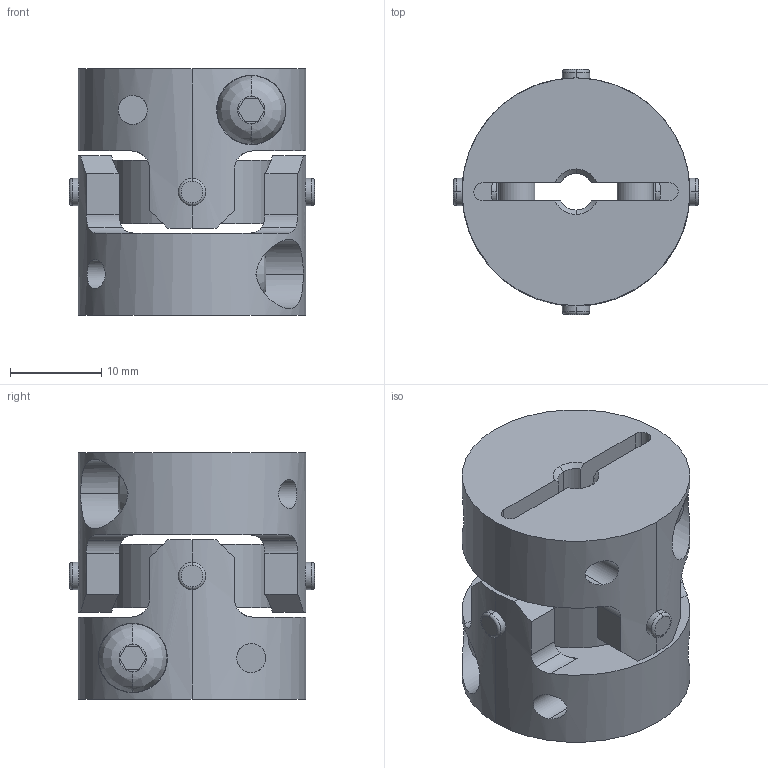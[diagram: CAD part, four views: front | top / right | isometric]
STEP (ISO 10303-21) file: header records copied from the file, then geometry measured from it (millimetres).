
FILE_DESCRIPTION((''),'2;1');
FILE_NAME('UA-25C-4×10.stp','2013-11-12T14:19:48',(''),(''),'AutoCAD STEP 2000i','AutoCAD 2000i',', , ');
FILE_SCHEMA(('CONFIG_CONTROL_DESIGN'));
Length unit declared in the file: millimetre
Products named in the file (6): UA-25C-5×5; 忣兜1; UA-2502-D05-1; BTN-M4; UA-2502-D05; UA25-SEN
Assembly tree (6 placements, depth 3):
  UA-25C-5×5
    忣兜1
    UA-2502-D05-1
      BTN-M4
    UA-2502-D05
      BTN-M4
    UA25-SEN
Bounding box: 26.89 x 26.89 x 27 mm (x, y, z)
Volume: 9093.6 mm3; surface area: 6455.6 mm2
Topology: 1 solids, 1 shells, 206 faces, 566 edges, 372 vertices
Faces by surface type: cylinder 96, plane 78, cone 16, bspline 8, torus 8
Entity records: 8455 total; most frequent: CARTESIAN_POINT 3083, ORIENTED_EDGE 1132, DIRECTION 1068, EDGE_CURVE 566, AXIS2_PLACEMENT_3D 409, VERTEX_POINT 372, VECTOR 250, LINE 250
